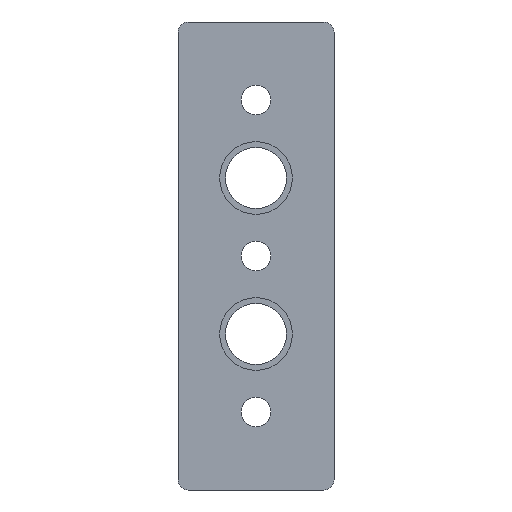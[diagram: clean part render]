
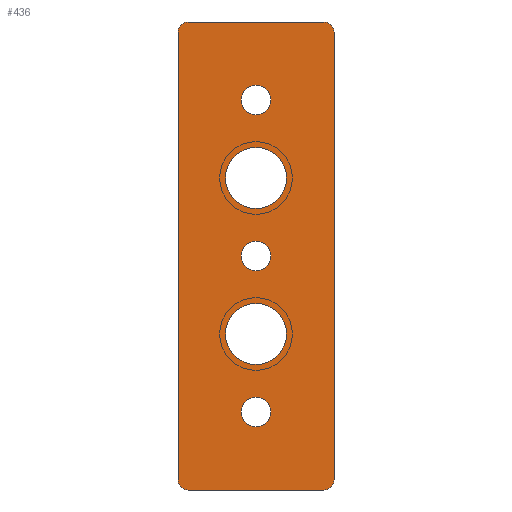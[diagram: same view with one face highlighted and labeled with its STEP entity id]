
A CAD part, front view. The second image highlights one B-rep face of the part: STEP entity #436.
In plain terms, the highlighted planar face has unit normal (0, -1, 0).
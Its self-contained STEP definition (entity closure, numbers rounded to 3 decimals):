
#1=CARTESIAN_POINT('',(0.,0.,-45.));
#2=DIRECTION('',(0.,-1.,0.));
#3=DIRECTION('',(1.,0.,0.));
#4=AXIS2_PLACEMENT_3D('',#1,#2,#3);
#6=CARTESIAN_POINT('',(0.,0.,-45.));
#7=DIRECTION('',(0.,-1.,0.));
#8=DIRECTION('',(-1.,0.,0.));
#9=AXIS2_PLACEMENT_3D('',#6,#7,#8);
#11=CARTESIAN_POINT('',(0.,0.,45.));
#12=DIRECTION('',(0.,-1.,0.));
#13=DIRECTION('',(1.,0.,0.));
#14=AXIS2_PLACEMENT_3D('',#11,#12,#13);
#16=CARTESIAN_POINT('',(0.,0.,45.));
#17=DIRECTION('',(0.,-1.,0.));
#18=DIRECTION('',(-1.,0.,0.));
#19=AXIS2_PLACEMENT_3D('',#16,#17,#18);
#21=CARTESIAN_POINT('',(0.,0.,0.));
#22=DIRECTION('',(0.,-1.,0.));
#23=DIRECTION('',(1.,0.,0.));
#24=AXIS2_PLACEMENT_3D('',#21,#22,#23);
#26=CARTESIAN_POINT('',(0.,0.,0.));
#27=DIRECTION('',(0.,-1.,0.));
#28=DIRECTION('',(-1.,0.,0.));
#29=AXIS2_PLACEMENT_3D('',#26,#27,#28);
#31=CARTESIAN_POINT('',(0.,0.,22.5));
#32=DIRECTION('',(0.,-1.,0.));
#33=DIRECTION('',(1.,0.,0.));
#34=AXIS2_PLACEMENT_3D('',#31,#32,#33);
#36=CARTESIAN_POINT('',(0.,0.,22.5));
#37=DIRECTION('',(0.,-1.,0.));
#38=DIRECTION('',(-1.,0.,0.));
#39=AXIS2_PLACEMENT_3D('',#36,#37,#38);
#41=CARTESIAN_POINT('',(0.,0.,-22.5));
#42=DIRECTION('',(0.,-1.,0.));
#43=DIRECTION('',(1.,0.,0.));
#44=AXIS2_PLACEMENT_3D('',#41,#42,#43);
#46=CARTESIAN_POINT('',(0.,0.,-22.5));
#47=DIRECTION('',(0.,-1.,0.));
#48=DIRECTION('',(-1.,0.,0.));
#49=AXIS2_PLACEMENT_3D('',#46,#47,#48);
#51=DIRECTION('',(0.,0.,-1.));
#52=VECTOR('',#51,129.);
#53=CARTESIAN_POINT('',(22.5,0.,64.5));
#54=LINE('',#53,#52);
#55=DIRECTION('',(-1.,0.,0.));
#56=VECTOR('',#55,39.);
#57=CARTESIAN_POINT('',(19.5,0.,-67.5));
#58=LINE('',#57,#56);
#59=DIRECTION('',(0.,0.,1.));
#60=VECTOR('',#59,129.);
#61=CARTESIAN_POINT('',(-22.5,0.,-64.5));
#62=LINE('',#61,#60);
#63=DIRECTION('',(1.,0.,0.));
#64=VECTOR('',#63,39.);
#65=CARTESIAN_POINT('',(-19.5,0.,67.5));
#66=LINE('',#65,#64);
#240=CARTESIAN_POINT('',(19.5,0.,64.5));
#241=DIRECTION('',(0.,-1.,0.));
#242=DIRECTION('',(1.,0.,0.));
#243=AXIS2_PLACEMENT_3D('',#240,#241,#242);
#258=CARTESIAN_POINT('',(-19.5,0.,64.5));
#259=DIRECTION('',(0.,-1.,0.));
#260=DIRECTION('',(0.,0.,1.));
#261=AXIS2_PLACEMENT_3D('',#258,#259,#260);
#276=CARTESIAN_POINT('',(-19.5,0.,-64.5));
#277=DIRECTION('',(0.,-1.,0.));
#278=DIRECTION('',(-1.,0.,0.));
#279=AXIS2_PLACEMENT_3D('',#276,#277,#278);
#294=CARTESIAN_POINT('',(19.5,0.,-64.5));
#295=DIRECTION('',(0.,-1.,0.));
#296=DIRECTION('',(0.,0.,-1.));
#297=AXIS2_PLACEMENT_3D('',#294,#295,#296);
#299=CARTESIAN_POINT('',(4.25,0.,-45.));
#300=CARTESIAN_POINT('',(-4.25,0.,-45.));
#301=VERTEX_POINT('',#299);
#302=VERTEX_POINT('',#300);
#303=CARTESIAN_POINT('',(4.25,0.,45.));
#304=CARTESIAN_POINT('',(-4.25,0.,45.));
#305=VERTEX_POINT('',#303);
#306=VERTEX_POINT('',#304);
#323=CARTESIAN_POINT('',(8.796,0.,22.5));
#324=CARTESIAN_POINT('',(-8.796,0.,22.5));
#325=VERTEX_POINT('',#323);
#326=VERTEX_POINT('',#324);
#331=CARTESIAN_POINT('',(8.796,0.,-22.5));
#332=CARTESIAN_POINT('',(-8.796,0.,-22.5));
#333=VERTEX_POINT('',#331);
#334=VERTEX_POINT('',#332);
#339=CARTESIAN_POINT('',(4.25,0.,0.));
#340=CARTESIAN_POINT('',(-4.25,0.,0.));
#341=VERTEX_POINT('',#339);
#342=VERTEX_POINT('',#340);
#352=CARTESIAN_POINT('',(19.5,0.,67.5));
#354=VERTEX_POINT('',#352);
#357=CARTESIAN_POINT('',(22.5,0.,64.5));
#358=VERTEX_POINT('',#357);
#360=CARTESIAN_POINT('',(-22.5,0.,64.5));
#362=VERTEX_POINT('',#360);
#365=CARTESIAN_POINT('',(-19.5,0.,67.5));
#366=VERTEX_POINT('',#365);
#368=CARTESIAN_POINT('',(22.5,0.,-64.5));
#370=VERTEX_POINT('',#368);
#373=CARTESIAN_POINT('',(19.5,0.,-67.5));
#374=VERTEX_POINT('',#373);
#376=CARTESIAN_POINT('',(-19.5,0.,-67.5));
#378=VERTEX_POINT('',#376);
#381=CARTESIAN_POINT('',(-22.5,0.,-64.5));
#382=VERTEX_POINT('',#381);
#383=CARTESIAN_POINT('',(0.,0.,0.));
#384=DIRECTION('',(0.,1.,0.));
#385=DIRECTION('',(1.,0.,0.));
#386=AXIS2_PLACEMENT_3D('',#383,#384,#385);
#387=PLANE('',#386);
#389=ORIENTED_EDGE('',*,*,#388,.F.);
#391=ORIENTED_EDGE('',*,*,#390,.T.);
#393=ORIENTED_EDGE('',*,*,#392,.F.);
#395=ORIENTED_EDGE('',*,*,#394,.T.);
#397=ORIENTED_EDGE('',*,*,#396,.F.);
#399=ORIENTED_EDGE('',*,*,#398,.T.);
#401=ORIENTED_EDGE('',*,*,#400,.F.);
#403=ORIENTED_EDGE('',*,*,#402,.T.);
#404=EDGE_LOOP('',(#389,#391,#393,#395,#397,#399,#401,#403));
#405=FACE_OUTER_BOUND('',#404,.F.);
#407=ORIENTED_EDGE('',*,*,#406,.T.);
#409=ORIENTED_EDGE('',*,*,#408,.T.);
#410=EDGE_LOOP('',(#407,#409));
#411=FACE_BOUND('',#410,.F.);
#413=ORIENTED_EDGE('',*,*,#412,.T.);
#415=ORIENTED_EDGE('',*,*,#414,.T.);
#416=EDGE_LOOP('',(#413,#415));
#417=FACE_BOUND('',#416,.F.);
#419=ORIENTED_EDGE('',*,*,#418,.T.);
#421=ORIENTED_EDGE('',*,*,#420,.T.);
#422=EDGE_LOOP('',(#419,#421));
#423=FACE_BOUND('',#422,.F.);
#425=ORIENTED_EDGE('',*,*,#424,.T.);
#427=ORIENTED_EDGE('',*,*,#426,.T.);
#428=EDGE_LOOP('',(#425,#427));
#429=FACE_BOUND('',#428,.F.);
#431=ORIENTED_EDGE('',*,*,#430,.T.);
#433=ORIENTED_EDGE('',*,*,#432,.T.);
#434=EDGE_LOOP('',(#431,#433));
#435=FACE_BOUND('',#434,.F.);
#436=ADVANCED_FACE('',(#405,#411,#417,#423,#429,#435),#387,.F.);
#5=CIRCLE('',#4,4.25);
#10=CIRCLE('',#9,4.25);
#15=CIRCLE('',#14,4.25);
#20=CIRCLE('',#19,4.25);
#25=CIRCLE('',#24,4.25);
#30=CIRCLE('',#29,4.25);
#35=CIRCLE('',#34,8.796);
#40=CIRCLE('',#39,8.796);
#45=CIRCLE('',#44,8.796);
#50=CIRCLE('',#49,8.796);
#244=CIRCLE('',#243,3.);
#262=CIRCLE('',#261,3.);
#280=CIRCLE('',#279,3.);
#298=CIRCLE('',#297,3.);
#388=EDGE_CURVE('',#358,#354,#244,.T.);
#390=EDGE_CURVE('',#358,#370,#54,.T.);
#392=EDGE_CURVE('',#374,#370,#298,.T.);
#394=EDGE_CURVE('',#374,#378,#58,.T.);
#396=EDGE_CURVE('',#382,#378,#280,.T.);
#398=EDGE_CURVE('',#382,#362,#62,.T.);
#400=EDGE_CURVE('',#366,#362,#262,.T.);
#402=EDGE_CURVE('',#366,#354,#66,.T.);
#406=EDGE_CURVE('',#301,#302,#5,.T.);
#408=EDGE_CURVE('',#302,#301,#10,.T.);
#412=EDGE_CURVE('',#305,#306,#15,.T.);
#414=EDGE_CURVE('',#306,#305,#20,.T.);
#418=EDGE_CURVE('',#341,#342,#25,.T.);
#420=EDGE_CURVE('',#342,#341,#30,.T.);
#424=EDGE_CURVE('',#325,#326,#35,.T.);
#426=EDGE_CURVE('',#326,#325,#40,.T.);
#430=EDGE_CURVE('',#333,#334,#45,.T.);
#432=EDGE_CURVE('',#334,#333,#50,.T.);
